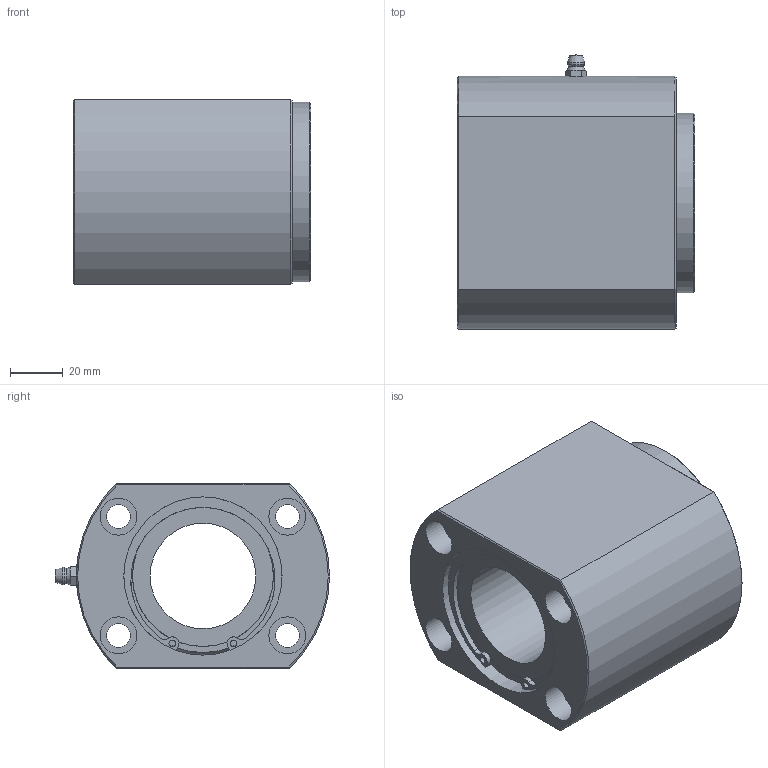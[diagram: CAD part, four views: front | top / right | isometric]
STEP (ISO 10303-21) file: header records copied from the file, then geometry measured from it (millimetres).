
FILE_DESCRIPTION((''),'2;1');
FILE_NAME('D:\製品 (図面)\カタログ用3D\リニアベアリング関連(改)\STEP形式\CTB\CTB40.stp','2010-01-25T09:49:17',('Tsuchiya'),(''),'Autodesk Inventor 10','Autodesk Inventor 10','');
FILE_SCHEMA(('AUTOMOTIVE_DESIGN { 1 0 10303 214 1 1 1 1 }'));
Length unit declared in the file: millimetre
Products named in the file (1): CTB40
Bounding box: 90 x 104.3 x 70 mm (x, y, z)
Volume: 375960.1 mm3; surface area: 61026.6 mm2
Topology: 1 solids, 3 shells, 103 faces, 256 edges, 158 vertices
Faces by surface type: plane 44, cylinder 27, bspline 16, cone 12, sphere 2, torus 2
Full cylindrical faces by diameter (mm): 2.5 x2, 9 x4, 14 x4, 40 x1, 53.4 x2, 57 x2, 60 x4, 68 x1
Entity records: 2940 total; most frequent: CARTESIAN_POINT 700, DIRECTION 490, ORIENTED_EDGE 402, AXIS2_PLACEMENT_3D 221, EDGE_CURVE 201, EDGE_LOOP 162, VERTEX_POINT 137, CIRCLE 129
